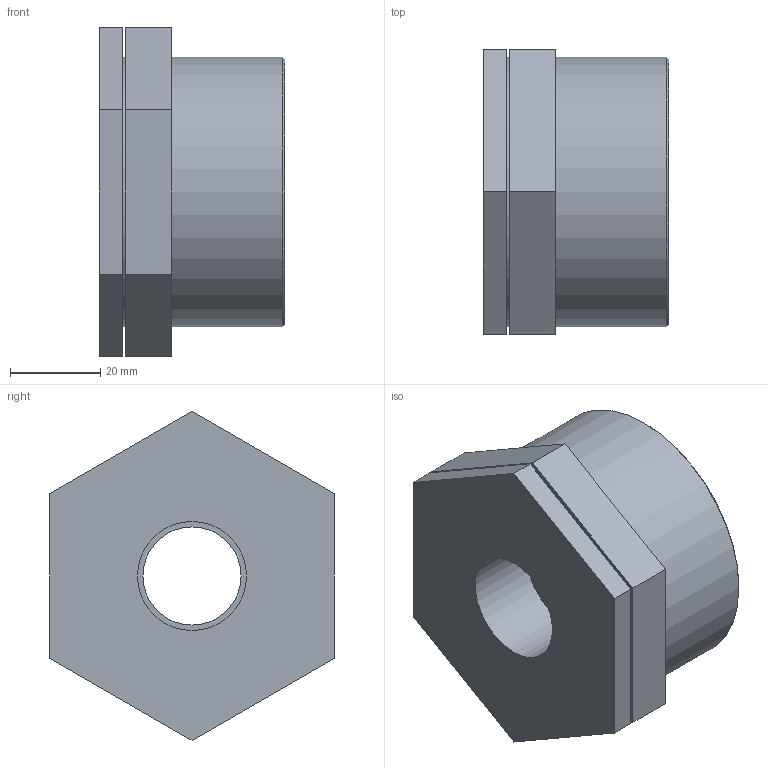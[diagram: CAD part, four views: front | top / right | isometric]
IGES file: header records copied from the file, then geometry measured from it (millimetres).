
Global section: file name: 050207020007_0502070200070A.ipt; native system: Autodesk Inventor 2015; preprocessor: unknown; author: KIM; date: 20170618.093138; units: millimetre
Bounding box: 41 x 63 x 72.75 mm (x, y, z)
Volume: 57758.7 mm3; surface area: 21767.1 mm2
Topology: 1 solids, 1 shells, 28 faces, 66 edges, 46 vertices
Faces by surface type: plane 20, revolution 4, cylinder 3, cone 1
Full cylindrical faces by diameter (mm): 28.94 x1, 59.614 x2
